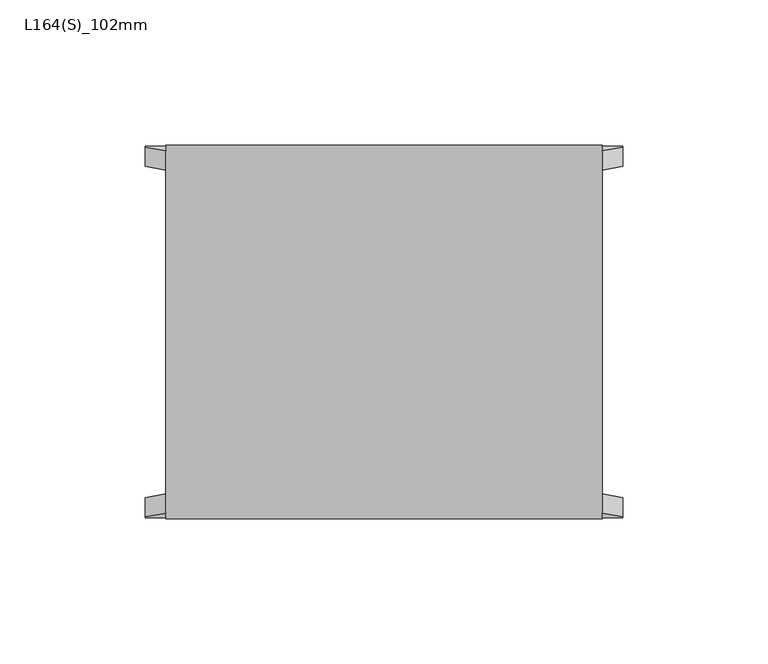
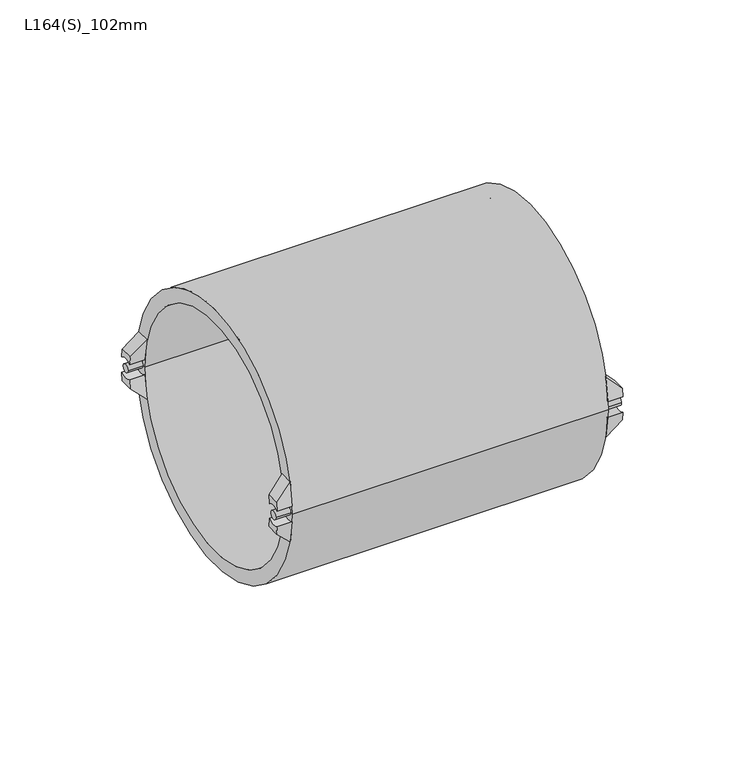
"""IFC4 building model written with IfcOpenShell, lengths in millimetres: pipe fitting geometry, Durapipe_PipeFitting_VulcatheneEnfusion_SlipCoupling_L16S : L164(S)_102mm."""

from ifc_helpers import new_model, si_unit, point, frame, frame_2d, origin, place, context, project, spatial, polyline, circle_curve, ellipse_curve, trimmed, segment, composite_curve, outline, extrude, source, transform, mapped, element, save
from ifc_brep_helpers import plane_surface, cylinder_surface, revolved_surface, advanced_brep


def l164_s_102mm_13951113(model_context):
    return source(origin(), model_context, "Body", "SolidModel", [
        advanced_brep(
        [(-82.1, -57.4312706, 3.6948156), (-82.1, -63.9312706, 3.898095), (-82.1, -63.5559509, 7.94), (-82.1, -56.9996395, 7.94), (-75.0, -62.2687923, 15.0), (-75.0, -63.9312706, 3.898095), (-75.0, -57.4312706, 3.6948156), (-75.0, -55.5608, 15.0)],
        [
            (0, 1, circle_curve(frame((-82.1, -60.8, 0.0), z_axis=(1.0, 0.0, 0.0), x_axis=(0.0, 1.0, 0.0)), 5.0)),
            (1, 2, circle_curve(frame((-82.1, 0.0, 0.0), z_axis=(-1.0, 0.0, 0.0), x_axis=(0.0, 1.0, 0.0)), 64.05)),
            (2, 3),
            (3, 0, circle_curve(frame((-82.1, 0.0, 0.0), z_axis=(1.0, 0.0, 0.0), x_axis=(0.0, 1.0, 0.0)), 57.55)),
            (4, 5, circle_curve(frame((-75.0, 0.0, 0.0), z_axis=(1.0, 0.0, 0.0), x_axis=(0.0, 1.0, 0.0)), 64.05)),
            (5, 6, circle_curve(frame((-75.0, -60.8, 0.0), z_axis=(-1.0, 0.0, 0.0), x_axis=(0.0, 1.0, 0.0)), 5.0)),
            (6, 7, circle_curve(frame((-75.0, 0.0, 0.0), z_axis=(-1.0, 0.0, 0.0), x_axis=(0.0, 1.0, 0.0)), 57.55)),
            (7, 4),
            (6, 0),
            (3, 7, ellipse_curve(frame((-90.0849858, 0.0, 0.0), z_axis=(-0.7051064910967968, 0.0, 0.7091014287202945), x_axis=(0.7091014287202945, 0.0, 0.7051064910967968)), 81.618877, 57.55)),
            (4, 2, ellipse_curve(frame((-90.0849858, 0.0, 0.0), z_axis=(0.7051064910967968, 0.0, -0.7091014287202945), x_axis=(-0.7091014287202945, 0.0, -0.7051064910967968)), 90.8373427, 64.05)),
            (1, 5),
        ],
        [
            plane_surface(frame((-82.1, -62.2687923, 15.0), z_axis=(-1.0, 0.0, 0.0), x_axis=(0.0, 1.0, 0.0))),
            plane_surface(frame((-75.0, -62.2687923, 15.0), z_axis=(1.0, 0.0, 0.0), x_axis=(0.0, -1.0, 0.0))),
            revolved_surface(polyline([(-32.20892350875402, 57.55, 0.0), (-147.96104809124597, 57.55, 0.0)]), (-75.0, 0.0, 0.0), (1.0, 0.0, 0.0)),
            cylinder_surface(frame((-75.0, 0.0, 0.0), z_axis=(-1.0, 0.0, 0.0), x_axis=(0.0, 1.0, 0.0)), 64.05),
            revolved_surface(polyline([(-82.1, -55.8, 0.0), (-75.0, -55.8, 0.0)]), (-75.0, -60.8, 0.0), (-1.0, 0.0, 0.0)),
            plane_surface(frame((-75.0, 64.05, 15.0), z_axis=(-0.7051064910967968, 0.0, 0.7091014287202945), x_axis=(0.0, -1.0, 0.0))),
        ],
        [
            (0, [[1, 2, 3, 4]]),
            (1, [[5, 6, 7, 8]]),
            (2, [[-7, 9, -4, 10]]),
            (3, [[-5, 11, -2, 12]]),
            (4, [[-1, -9, -6, -12]]),
            (5, [[-3, -11, -8, -10]]),
        ],
    ),
        advanced_brep(
        [(-82.1, -63.9312706, -3.898095), (-82.1, -57.4312706, -3.6948156), (-82.1, -56.9996395, -7.94), (-82.1, -63.5559509, -7.94), (-75.0, -63.9312706, -3.898095), (-75.0, -62.2687923, -15.0), (-75.0, -55.5608, -15.0), (-75.0, -57.4312706, -3.6948156)],
        [
            (0, 1, circle_curve(frame((-82.1, -60.8, 0.0), z_axis=(1.0, 0.0, 0.0), x_axis=(0.0, 1.0, 0.0)), 5.0)),
            (1, 2, circle_curve(frame((-82.1, 0.0, 0.0), z_axis=(1.0, 0.0, 0.0), x_axis=(0.0, 1.0, 0.0)), 57.55)),
            (2, 3),
            (3, 0, circle_curve(frame((-82.1, 0.0, 0.0), z_axis=(-1.0, 0.0, 0.0), x_axis=(0.0, 1.0, 0.0)), 64.05)),
            (4, 5, circle_curve(frame((-75.0, 0.0, 0.0), z_axis=(1.0, 0.0, 0.0), x_axis=(0.0, 1.0, 0.0)), 64.05)),
            (5, 6),
            (6, 7, circle_curve(frame((-75.0, 0.0, 0.0), z_axis=(-1.0, 0.0, 0.0), x_axis=(0.0, 1.0, 0.0)), 57.55)),
            (7, 4, circle_curve(frame((-75.0, -60.8, 0.0), z_axis=(-1.0, 0.0, 0.0), x_axis=(0.0, 1.0, 0.0)), 5.0)),
            (6, 2, ellipse_curve(frame((-90.0849858, 0.0, 0.0), z_axis=(-0.7051064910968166, 0.0, -0.7091014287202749), x_axis=(0.7091014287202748, 0.0, -0.7051064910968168)), 81.618877, 57.55)),
            (1, 7),
            (4, 0),
            (3, 5, ellipse_curve(frame((-90.0849858, 0.0, 0.0), z_axis=(0.7051064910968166, 0.0, 0.7091014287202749), x_axis=(-0.7091014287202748, 0.0, 0.7051064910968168)), 90.8373427, 64.05)),
        ],
        [
            plane_surface(frame((-82.1, -62.2687923, 15.0), z_axis=(-1.0, 0.0, 0.0), x_axis=(0.0, 1.0, 0.0))),
            plane_surface(frame((-75.0, -62.2687923, 15.0), z_axis=(1.0, 0.0, 0.0), x_axis=(0.0, -1.0, 0.0))),
            revolved_surface(polyline([(-32.208923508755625, 57.55, 0.0), (-147.96104809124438, 57.55, 0.0)]), (-75.0, 0.0, 0.0), (1.0, 0.0, 0.0)),
            cylinder_surface(frame((-75.0, 0.0, 0.0), z_axis=(-1.0, 0.0, 0.0), x_axis=(0.0, 1.0, 0.0)), 64.05),
            revolved_surface(polyline([(-82.1, -55.8, 0.0), (-75.0, -55.8, 0.0)]), (-75.0, -60.8, 0.0), (-1.0, 0.0, 0.0)),
            plane_surface(frame((-82.1, 64.05, -7.94), z_axis=(-0.7051064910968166, 0.0, -0.7091014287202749), x_axis=(0.0, -1.0, 0.0))),
        ],
        [
            (0, [[1, 2, 3, 4]]),
            (1, [[5, 6, 7, 8]]),
            (2, [[-7, 9, -2, 10]]),
            (3, [[-5, 11, -4, 12]]),
            (4, [[-1, -11, -8, -10]]),
            (5, [[-3, -9, -6, -12]]),
        ],
    ),
        advanced_brep(
        [(-82.1, 63.9312706, 3.898095), (-82.1, 57.4312706, 3.6948156), (-82.1, 56.9996395, 7.94), (-82.1, 63.5559509, 7.94), (-75.0, 63.9312706, 3.898095), (-75.0, 62.2687923, 15.0), (-75.0, 55.5608, 15.0), (-75.0, 57.4312706, 3.6948156)],
        [
            (0, 1, circle_curve(frame((-82.1, 60.8, 0.0), z_axis=(1.0, 0.0, 0.0), x_axis=(0.0, 1.0, 0.0)), 5.0)),
            (1, 2, circle_curve(frame((-82.1, 0.0, 0.0), z_axis=(1.0, 0.0, 0.0), x_axis=(0.0, 1.0, 0.0)), 57.55)),
            (2, 3),
            (3, 0, circle_curve(frame((-82.1, 0.0, 0.0), z_axis=(-1.0, 0.0, 0.0), x_axis=(0.0, 1.0, 0.0)), 64.05)),
            (4, 5, circle_curve(frame((-75.0, 0.0, 0.0), z_axis=(1.0, 0.0, 0.0), x_axis=(0.0, 1.0, 0.0)), 64.05)),
            (5, 6),
            (6, 7, circle_curve(frame((-75.0, 0.0, 0.0), z_axis=(-1.0, 0.0, 0.0), x_axis=(0.0, 1.0, 0.0)), 57.55)),
            (7, 4, circle_curve(frame((-75.0, 60.8, 0.0), z_axis=(-1.0, 0.0, 0.0), x_axis=(0.0, 1.0, 0.0)), 5.0)),
            (6, 2, ellipse_curve(frame((-90.0849858, 0.0, 0.0), z_axis=(-0.7051064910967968, 0.0, 0.7091014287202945), x_axis=(0.7091014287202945, 0.0, 0.7051064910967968)), 81.618877, 57.55)),
            (1, 7),
            (4, 0),
            (3, 5, ellipse_curve(frame((-90.0849858, 0.0, 0.0), z_axis=(0.7051064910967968, 0.0, -0.7091014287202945), x_axis=(-0.7091014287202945, 0.0, -0.7051064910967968)), 90.8373427, 64.05)),
        ],
        [
            plane_surface(frame((-82.1, -62.2687923, 15.0), z_axis=(-1.0, 0.0, 0.0), x_axis=(0.0, 1.0, 0.0))),
            plane_surface(frame((-75.0, -62.2687923, 15.0), z_axis=(1.0, 0.0, 0.0), x_axis=(0.0, -1.0, 0.0))),
            revolved_surface(polyline([(-32.20892350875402, 57.55, 0.0), (-147.96104809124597, 57.55, 0.0)]), (-75.0, 0.0, 0.0), (1.0, 0.0, 0.0)),
            cylinder_surface(frame((-75.0, 0.0, 0.0), z_axis=(-1.0, 0.0, 0.0), x_axis=(0.0, 1.0, 0.0)), 64.05),
            revolved_surface(polyline([(-82.1, 65.8, 0.0), (-75.0, 65.8, 0.0)]), (-75.0, 60.8, 0.0), (-1.0, 0.0, 0.0)),
            plane_surface(frame((-75.0, 64.05, 15.0), z_axis=(-0.7051064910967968, 0.0, 0.7091014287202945), x_axis=(0.0, -1.0, 0.0))),
        ],
        [
            (0, [[1, 2, 3, 4]]),
            (1, [[5, 6, 7, 8]]),
            (2, [[-7, 9, -2, 10]]),
            (3, [[-5, 11, -4, 12]]),
            (4, [[-1, -11, -8, -10]]),
            (5, [[-3, -9, -6, -12]]),
        ],
    ),
        advanced_brep(
        [(-82.1, 57.4312706, -3.6948156), (-82.1, 63.9312706, -3.898095), (-82.1, 63.5559509, -7.94), (-82.1, 56.9996395, -7.94), (-75.0, 62.2687923, -15.0), (-75.0, 63.9312706, -3.898095), (-75.0, 57.4312706, -3.6948156), (-75.0, 55.5608, -15.0)],
        [
            (0, 1, circle_curve(frame((-82.1, 60.8, 0.0), z_axis=(1.0, 0.0, 0.0), x_axis=(0.0, 1.0, 0.0)), 5.0)),
            (1, 2, circle_curve(frame((-82.1, 0.0, 0.0), z_axis=(-1.0, 0.0, 0.0), x_axis=(0.0, 1.0, 0.0)), 64.05)),
            (2, 3),
            (3, 0, circle_curve(frame((-82.1, 0.0, 0.0), z_axis=(1.0, 0.0, 0.0), x_axis=(0.0, 1.0, 0.0)), 57.55)),
            (4, 5, circle_curve(frame((-75.0, 0.0, 0.0), z_axis=(1.0, 0.0, 0.0), x_axis=(0.0, 1.0, 0.0)), 64.05)),
            (5, 6, circle_curve(frame((-75.0, 60.8, 0.0), z_axis=(-1.0, 0.0, 0.0), x_axis=(0.0, 1.0, 0.0)), 5.0)),
            (6, 7, circle_curve(frame((-75.0, 0.0, 0.0), z_axis=(-1.0, 0.0, 0.0), x_axis=(0.0, 1.0, 0.0)), 57.55)),
            (7, 4),
            (6, 0),
            (3, 7, ellipse_curve(frame((-90.0849858, 0.0, 0.0), z_axis=(-0.7051064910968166, 0.0, -0.7091014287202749), x_axis=(0.7091014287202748, 0.0, -0.7051064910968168)), 81.618877, 57.55)),
            (4, 2, ellipse_curve(frame((-90.0849858, 0.0, 0.0), z_axis=(0.7051064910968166, 0.0, 0.7091014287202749), x_axis=(-0.7091014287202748, 0.0, 0.7051064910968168)), 90.8373427, 64.05)),
            (1, 5),
        ],
        [
            plane_surface(frame((-82.1, -62.2687923, 15.0), z_axis=(-1.0, 0.0, 0.0), x_axis=(0.0, 1.0, 0.0))),
            plane_surface(frame((-75.0, -62.2687923, 15.0), z_axis=(1.0, 0.0, 0.0), x_axis=(0.0, -1.0, 0.0))),
            revolved_surface(polyline([(-32.208923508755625, 57.55, 0.0), (-147.96104809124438, 57.55, 0.0)]), (-75.0, 0.0, 0.0), (1.0, 0.0, 0.0)),
            cylinder_surface(frame((-75.0, 0.0, 0.0), z_axis=(-1.0, 0.0, 0.0), x_axis=(0.0, 1.0, 0.0)), 64.05),
            revolved_surface(polyline([(-82.1, 65.8, 0.0), (-75.0, 65.8, 0.0)]), (-75.0, 60.8, 0.0), (-1.0, 0.0, 0.0)),
            plane_surface(frame((-82.1, 64.05, -7.94), z_axis=(-0.7051064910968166, 0.0, -0.7091014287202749), x_axis=(0.0, -1.0, 0.0))),
        ],
        [
            (0, [[1, 2, 3, 4]]),
            (1, [[5, 6, 7, 8]]),
            (2, [[-7, 9, -4, 10]]),
            (3, [[-5, 11, -2, 12]]),
            (4, [[-1, -9, -6, -12]]),
            (5, [[-3, -11, -8, -10]]),
        ],
    ),
        extrude(outline(composite_curve([segment(trimmed(circle_curve(frame_2d((-60.8, 0.0)), 2.0), [point((-62.8, 0.0))], [point((-58.8, 0.0))], False, "CARTESIAN"), True, "CONTINUOUS"), segment(trimmed(circle_curve(frame_2d((-60.8, 0.0)), 2.0), [point((-58.8, 0.0))], [point((-62.8, 0.0))], False, "CARTESIAN"), True, "CONTINUOUS")], self_intersect=False)), frame((-82.1, 0.0, 0.0), z_axis=(1.0, 0.0, 0.0), x_axis=(0.0, 1.0, 0.0)), (0.0, 0.0, 1.0), 7.1),
        extrude(outline(composite_curve([segment(trimmed(circle_curve(frame_2d((60.8, 0.0)), 2.0), [point((58.8, 0.0))], [point((62.8, 0.0))], False, "CARTESIAN"), True, "CONTINUOUS"), segment(trimmed(circle_curve(frame_2d((60.8, 0.0)), 2.0), [point((62.8, 0.0))], [point((58.8, 0.0))], False, "CARTESIAN"), True, "CONTINUOUS")], self_intersect=False)), frame((-82.1, 0.0, 0.0), z_axis=(1.0, 0.0, 0.0), x_axis=(0.0, 1.0, 0.0)), (0.0, 0.0, 1.0), 7.1),
        advanced_brep(
        [(82.1, -57.4312706, -3.6948156), (82.1, -63.9312706, -3.898095), (82.1, -63.5559509, -7.94), (82.1, -56.9996395, -7.94), (75.0, -62.2687923, -15.0), (75.0, -63.9312706, -3.898095), (75.0, -57.4312706, -3.6948156), (75.0, -55.5608, -15.0)],
        [
            (0, 1, circle_curve(frame((82.1, -60.8, 0.0), z_axis=(-1.0, 0.0, 0.0), x_axis=(0.0, 1.0, 0.0)), 5.0)),
            (1, 2, circle_curve(frame((82.1, 0.0, 0.0), z_axis=(1.0, 0.0, 0.0), x_axis=(0.0, 1.0, 0.0)), 64.05)),
            (2, 3),
            (3, 0, circle_curve(frame((82.1, 0.0, 0.0), z_axis=(-1.0, 0.0, 0.0), x_axis=(0.0, 1.0, 0.0)), 57.55)),
            (4, 5, circle_curve(frame((75.0, 0.0, 0.0), z_axis=(-1.0, 0.0, 0.0), x_axis=(0.0, 1.0, 0.0)), 64.05)),
            (5, 6, circle_curve(frame((75.0, -60.8, 0.0), z_axis=(1.0, 0.0, 0.0), x_axis=(0.0, 1.0, 0.0)), 5.0)),
            (6, 7, circle_curve(frame((75.0, 0.0, 0.0), z_axis=(1.0, 0.0, 0.0), x_axis=(0.0, 1.0, 0.0)), 57.55)),
            (7, 4),
            (6, 0),
            (3, 7, ellipse_curve(frame((90.0849858, 0.0, 0.0), z_axis=(0.7051064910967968, 0.0, -0.7091014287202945), x_axis=(-0.7091014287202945, 0.0, -0.7051064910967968)), 81.618877, 57.55)),
            (4, 2, ellipse_curve(frame((90.0849858, 0.0, 0.0), z_axis=(-0.7051064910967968, 0.0, 0.7091014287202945), x_axis=(0.7091014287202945, 0.0, 0.7051064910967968)), 90.8373427, 64.05)),
            (1, 5),
        ],
        [
            plane_surface(frame((82.1, -62.2687923, -15.0), z_axis=(1.0, 0.0, 0.0), x_axis=(0.0, 1.0, 0.0))),
            plane_surface(frame((75.0, -62.2687923, -15.0), z_axis=(-1.0, 0.0, 0.0), x_axis=(0.0, -1.0, 0.0))),
            revolved_surface(polyline([(32.20892350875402, 57.55, 0.0), (147.96104809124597, 57.55, 0.0)]), (75.0, 0.0, 0.0), (-1.0, 0.0, 0.0)),
            cylinder_surface(frame((75.0, 0.0, 0.0), z_axis=(1.0, 0.0, 0.0), x_axis=(0.0, 1.0, 0.0)), 64.05),
            revolved_surface(polyline([(82.1, -55.8, 0.0), (75.0, -55.8, 0.0)]), (75.0, -60.8, 0.0), (1.0, 0.0, 0.0)),
            plane_surface(frame((75.0, 64.05, -15.0), z_axis=(0.7051064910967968, 0.0, -0.7091014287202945), x_axis=(0.0, -1.0, 0.0))),
        ],
        [
            (0, [[1, 2, 3, 4]]),
            (1, [[5, 6, 7, 8]]),
            (2, [[-7, 9, -4, 10]]),
            (3, [[-5, 11, -2, 12]]),
            (4, [[-1, -9, -6, -12]]),
            (5, [[-3, -11, -8, -10]]),
        ],
    ),
        advanced_brep(
        [(82.1, -63.9312706, 3.898095), (82.1, -57.4312706, 3.6948156), (82.1, -56.9996395, 7.94), (82.1, -63.5559509, 7.94), (75.0, -63.9312706, 3.898095), (75.0, -62.2687923, 15.0), (75.0, -55.5608, 15.0), (75.0, -57.4312706, 3.6948156)],
        [
            (0, 1, circle_curve(frame((82.1, -60.8, 0.0), z_axis=(-1.0, 0.0, 0.0), x_axis=(0.0, 1.0, 0.0)), 5.0)),
            (1, 2, circle_curve(frame((82.1, 0.0, 0.0), z_axis=(-1.0, 0.0, 0.0), x_axis=(0.0, 1.0, 0.0)), 57.55)),
            (2, 3),
            (3, 0, circle_curve(frame((82.1, 0.0, 0.0), z_axis=(1.0, 0.0, 0.0), x_axis=(0.0, 1.0, 0.0)), 64.05)),
            (4, 5, circle_curve(frame((75.0, 0.0, 0.0), z_axis=(-1.0, 0.0, 0.0), x_axis=(0.0, 1.0, 0.0)), 64.05)),
            (5, 6),
            (6, 7, circle_curve(frame((75.0, 0.0, 0.0), z_axis=(1.0, 0.0, 0.0), x_axis=(0.0, 1.0, 0.0)), 57.55)),
            (7, 4, circle_curve(frame((75.0, -60.8, 0.0), z_axis=(1.0, 0.0, 0.0), x_axis=(0.0, 1.0, 0.0)), 5.0)),
            (6, 2, ellipse_curve(frame((90.0849858, 0.0, 0.0), z_axis=(0.7051064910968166, 0.0, 0.7091014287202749), x_axis=(-0.7091014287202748, 0.0, 0.7051064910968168)), 81.618877, 57.55)),
            (1, 7),
            (4, 0),
            (3, 5, ellipse_curve(frame((90.0849858, 0.0, 0.0), z_axis=(-0.7051064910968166, 0.0, -0.7091014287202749), x_axis=(0.7091014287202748, 0.0, -0.7051064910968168)), 90.8373427, 64.05)),
        ],
        [
            plane_surface(frame((82.1, -62.2687923, -15.0), z_axis=(1.0, 0.0, 0.0), x_axis=(0.0, 1.0, 0.0))),
            plane_surface(frame((75.0, -62.2687923, -15.0), z_axis=(-1.0, 0.0, 0.0), x_axis=(0.0, -1.0, 0.0))),
            revolved_surface(polyline([(32.208923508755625, 57.55, 0.0), (147.96104809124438, 57.55, 0.0)]), (75.0, 0.0, 0.0), (-1.0, 0.0, 0.0)),
            cylinder_surface(frame((75.0, 0.0, 0.0), z_axis=(1.0, 0.0, 0.0), x_axis=(0.0, 1.0, 0.0)), 64.05),
            revolved_surface(polyline([(82.1, -55.8, 0.0), (75.0, -55.8, 0.0)]), (75.0, -60.8, 0.0), (1.0, 0.0, 0.0)),
            plane_surface(frame((82.1, 64.05, 7.94), z_axis=(0.7051064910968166, 0.0, 0.7091014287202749), x_axis=(0.0, -1.0, 0.0))),
        ],
        [
            (0, [[1, 2, 3, 4]]),
            (1, [[5, 6, 7, 8]]),
            (2, [[-7, 9, -2, 10]]),
            (3, [[-5, 11, -4, 12]]),
            (4, [[-1, -11, -8, -10]]),
            (5, [[-3, -9, -6, -12]]),
        ],
    ),
        advanced_brep(
        [(82.1, 63.9312706, -3.898095), (82.1, 57.4312706, -3.6948156), (82.1, 56.9996395, -7.94), (82.1, 63.5559509, -7.94), (75.0, 63.9312706, -3.898095), (75.0, 62.2687923, -15.0), (75.0, 55.5608, -15.0), (75.0, 57.4312706, -3.6948156)],
        [
            (0, 1, circle_curve(frame((82.1, 60.8, 0.0), z_axis=(-1.0, 0.0, 0.0), x_axis=(0.0, 1.0, 0.0)), 5.0)),
            (1, 2, circle_curve(frame((82.1, 0.0, 0.0), z_axis=(-1.0, 0.0, 0.0), x_axis=(0.0, 1.0, 0.0)), 57.55)),
            (2, 3),
            (3, 0, circle_curve(frame((82.1, 0.0, 0.0), z_axis=(1.0, 0.0, 0.0), x_axis=(0.0, 1.0, 0.0)), 64.05)),
            (4, 5, circle_curve(frame((75.0, 0.0, 0.0), z_axis=(-1.0, 0.0, 0.0), x_axis=(0.0, 1.0, 0.0)), 64.05)),
            (5, 6),
            (6, 7, circle_curve(frame((75.0, 0.0, 0.0), z_axis=(1.0, 0.0, 0.0), x_axis=(0.0, 1.0, 0.0)), 57.55)),
            (7, 4, circle_curve(frame((75.0, 60.8, 0.0), z_axis=(1.0, 0.0, 0.0), x_axis=(0.0, 1.0, 0.0)), 5.0)),
            (6, 2, ellipse_curve(frame((90.0849858, 0.0, 0.0), z_axis=(0.7051064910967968, 0.0, -0.7091014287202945), x_axis=(-0.7091014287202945, 0.0, -0.7051064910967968)), 81.618877, 57.55)),
            (1, 7),
            (4, 0),
            (3, 5, ellipse_curve(frame((90.0849858, 0.0, 0.0), z_axis=(-0.7051064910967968, 0.0, 0.7091014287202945), x_axis=(0.7091014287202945, 0.0, 0.7051064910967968)), 90.8373427, 64.05)),
        ],
        [
            plane_surface(frame((82.1, -62.2687923, -15.0), z_axis=(1.0, 0.0, 0.0), x_axis=(0.0, 1.0, 0.0))),
            plane_surface(frame((75.0, -62.2687923, -15.0), z_axis=(-1.0, 0.0, 0.0), x_axis=(0.0, -1.0, 0.0))),
            revolved_surface(polyline([(32.20892350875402, 57.55, 0.0), (147.96104809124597, 57.55, 0.0)]), (75.0, 0.0, 0.0), (-1.0, 0.0, 0.0)),
            cylinder_surface(frame((75.0, 0.0, 0.0), z_axis=(1.0, 0.0, 0.0), x_axis=(0.0, 1.0, 0.0)), 64.05),
            revolved_surface(polyline([(82.1, 65.8, 0.0), (75.0, 65.8, 0.0)]), (75.0, 60.8, 0.0), (1.0, 0.0, 0.0)),
            plane_surface(frame((75.0, 64.05, -15.0), z_axis=(0.7051064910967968, 0.0, -0.7091014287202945), x_axis=(0.0, -1.0, 0.0))),
        ],
        [
            (0, [[1, 2, 3, 4]]),
            (1, [[5, 6, 7, 8]]),
            (2, [[-7, 9, -2, 10]]),
            (3, [[-5, 11, -4, 12]]),
            (4, [[-1, -11, -8, -10]]),
            (5, [[-3, -9, -6, -12]]),
        ],
    ),
        advanced_brep(
        [(82.1, 57.4312706, 3.6948156), (82.1, 63.9312706, 3.898095), (82.1, 63.5559509, 7.94), (82.1, 56.9996395, 7.94), (75.0, 62.2687923, 15.0), (75.0, 63.9312706, 3.898095), (75.0, 57.4312706, 3.6948156), (75.0, 55.5608, 15.0)],
        [
            (0, 1, circle_curve(frame((82.1, 60.8, 0.0), z_axis=(-1.0, 0.0, 0.0), x_axis=(0.0, 1.0, 0.0)), 5.0)),
            (1, 2, circle_curve(frame((82.1, 0.0, 0.0), z_axis=(1.0, 0.0, 0.0), x_axis=(0.0, 1.0, 0.0)), 64.05)),
            (2, 3),
            (3, 0, circle_curve(frame((82.1, 0.0, 0.0), z_axis=(-1.0, 0.0, 0.0), x_axis=(0.0, 1.0, 0.0)), 57.55)),
            (4, 5, circle_curve(frame((75.0, 0.0, 0.0), z_axis=(-1.0, 0.0, 0.0), x_axis=(0.0, 1.0, 0.0)), 64.05)),
            (5, 6, circle_curve(frame((75.0, 60.8, 0.0), z_axis=(1.0, 0.0, 0.0), x_axis=(0.0, 1.0, 0.0)), 5.0)),
            (6, 7, circle_curve(frame((75.0, 0.0, 0.0), z_axis=(1.0, 0.0, 0.0), x_axis=(0.0, 1.0, 0.0)), 57.55)),
            (7, 4),
            (6, 0),
            (3, 7, ellipse_curve(frame((90.0849858, 0.0, 0.0), z_axis=(0.7051064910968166, 0.0, 0.7091014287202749), x_axis=(-0.7091014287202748, 0.0, 0.7051064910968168)), 81.618877, 57.55)),
            (4, 2, ellipse_curve(frame((90.0849858, 0.0, 0.0), z_axis=(-0.7051064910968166, 0.0, -0.7091014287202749), x_axis=(0.7091014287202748, 0.0, -0.7051064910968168)), 90.8373427, 64.05)),
            (1, 5),
        ],
        [
            plane_surface(frame((82.1, -62.2687923, -15.0), z_axis=(1.0, 0.0, 0.0), x_axis=(0.0, 1.0, 0.0))),
            plane_surface(frame((75.0, -62.2687923, -15.0), z_axis=(-1.0, 0.0, 0.0), x_axis=(0.0, -1.0, 0.0))),
            revolved_surface(polyline([(32.208923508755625, 57.55, 0.0), (147.96104809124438, 57.55, 0.0)]), (75.0, 0.0, 0.0), (-1.0, 0.0, 0.0)),
            cylinder_surface(frame((75.0, 0.0, 0.0), z_axis=(1.0, 0.0, 0.0), x_axis=(0.0, 1.0, 0.0)), 64.05),
            revolved_surface(polyline([(82.1, 65.8, 0.0), (75.0, 65.8, 0.0)]), (75.0, 60.8, 0.0), (1.0, 0.0, 0.0)),
            plane_surface(frame((82.1, 64.05, 7.94), z_axis=(0.7051064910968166, 0.0, 0.7091014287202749), x_axis=(0.0, -1.0, 0.0))),
        ],
        [
            (0, [[1, 2, 3, 4]]),
            (1, [[5, 6, 7, 8]]),
            (2, [[-7, 9, -4, 10]]),
            (3, [[-5, 11, -2, 12]]),
            (4, [[-1, -9, -6, -12]]),
            (5, [[-3, -11, -8, -10]]),
        ],
    ),
        extrude(outline(composite_curve([segment(trimmed(circle_curve(frame_2d((-60.8, 0.0)), 2.0), [point((-62.8, 0.0))], [point((-58.8, 0.0))], False, "CARTESIAN"), True, "CONTINUOUS"), segment(trimmed(circle_curve(frame_2d((-60.8, 0.0)), 2.0), [point((-58.8, 0.0))], [point((-62.8, 0.0))], False, "CARTESIAN"), True, "CONTINUOUS")], self_intersect=False)), frame((75.0, 0.0, 0.0), z_axis=(1.0, 0.0, 0.0), x_axis=(0.0, 1.0, 0.0)), (0.0, 0.0, 1.0), 7.1),
        extrude(outline(composite_curve([segment(trimmed(circle_curve(frame_2d((60.8, 0.0)), 2.0), [point((58.8, 0.0))], [point((62.8, 0.0))], False, "CARTESIAN"), True, "CONTINUOUS"), segment(trimmed(circle_curve(frame_2d((60.8, 0.0)), 2.0), [point((62.8, 0.0))], [point((58.8, 0.0))], False, "CARTESIAN"), True, "CONTINUOUS")], self_intersect=False)), frame((75.0, 0.0, 0.0), z_axis=(1.0, 0.0, 0.0), x_axis=(0.0, 1.0, 0.0)), (0.0, 0.0, 1.0), 7.1),
        advanced_brep(
        [(75.0, -64.2, 0.0), (75.0, 64.2, 0.0), (75.0, 57.4, 0.0), (75.0, -57.4, 0.0), (-75.0, -64.2, 0.0), (-75.0, 64.2, 0.0), (-75.0, -57.4, 0.0), (-75.0, 57.4, 0.0)],
        [
            (0, 1, circle_curve(frame((75.0, 0.0, 0.0), z_axis=(1.0, 0.0, 0.0), x_axis=(0.0, 1.0, 0.0)), 64.2)),
            (1, 2),
            (2, 3, circle_curve(frame((75.0, 0.0, 0.0), z_axis=(-1.0, 0.0, 0.0), x_axis=(0.0, 1.0, 0.0)), 57.4)),
            (3, 0),
            (1, 0, circle_curve(frame((75.0, 0.0, 0.0), z_axis=(1.0, 0.0, 0.0), x_axis=(0.0, 1.0, 0.0)), 64.2)),
            (3, 2, circle_curve(frame((75.0, 0.0, 0.0), z_axis=(-1.0, 0.0, 0.0), x_axis=(0.0, 1.0, 0.0)), 57.4)),
            (4, 5, circle_curve(frame((-75.0, 0.0, 0.0), z_axis=(1.0, 0.0, 0.0), x_axis=(0.0, 1.0, 0.0)), 64.2)),
            (5, 1),
            (0, 4),
            (5, 4, circle_curve(frame((-75.0, 0.0, 0.0), z_axis=(1.0, 0.0, 0.0), x_axis=(0.0, 1.0, 0.0)), 64.2)),
            (6, 7, circle_curve(frame((-75.0, 0.0, 0.0), z_axis=(1.0, 0.0, 0.0), x_axis=(0.0, 1.0, 0.0)), 57.4)),
            (7, 5),
            (4, 6),
            (7, 6, circle_curve(frame((-75.0, 0.0, 0.0), z_axis=(1.0, 0.0, 0.0), x_axis=(0.0, 1.0, 0.0)), 57.4)),
            (2, 7),
            (6, 3),
        ],
        [
            plane_surface(frame((75.0, 0.0, 0.0), z_axis=(1.0, 0.0, 0.0), x_axis=(0.0, 1.0, 0.0))),
            cylinder_surface(frame((1571.2518184, 0.0, 0.0), z_axis=(-1.0, 0.0, 0.0), x_axis=(0.0, 1.0, 0.0)), 64.2),
            plane_surface(frame((-75.0, 0.0, 0.0), z_axis=(-1.0, 0.0, 0.0), x_axis=(0.0, 1.0, 0.0))),
            revolved_surface(polyline([(-75.0, 57.4, 0.0), (75.0, 57.4, 0.0)]), (1571.2518184, 0.0, 0.0), (-1.0, 0.0, 0.0)),
        ],
        [
            (0, [[1, 2, 3, 4]]),
            (0, [[5, -4, 6, -2]]),
            (1, [[7, 8, -1, 9]]),
            (1, [[10, -9, -5, -8]]),
            (2, [[11, 12, -7, 13]]),
            (2, [[14, -13, -10, -12]]),
            (3, [[-3, 15, -11, 16]]),
            (3, [[-6, -16, -14, -15]]),
        ],
    ),
    ])


if __name__ == "__main__":
    model = new_model("IFC4")
    model_context = context("Model", 3, world=origin())
    ifc_project = project(units=[si_unit("LENGTHUNIT", "METRE", prefix="MILLI")], contexts=[model_context])
    site = spatial("IfcSite", under=ifc_project)
    building = spatial("IfcBuilding", under=site)
    placement = place(None, origin())
    l164_s_102mm_shape = l164_s_102mm_13951113(model_context)
    element("IfcPipeFitting", 1, ObjectType="Durapipe_PipeFitting_VulcatheneEnfusion_SlipCoupling_L16S : L164(S)_102mm", at=placement, inside=building, context=model_context, shape_type="MappedRepresentation", body=[
        mapped(l164_s_102mm_shape, transform((0.0, 0.0, 0.0), x_axis=(1.0, 0.0, 0.0), y_axis=(0.0, 1.0, 0.0), z_axis=(0.0, 0.0, 1.0))),
    ])
    save(model, "model.ifc")
